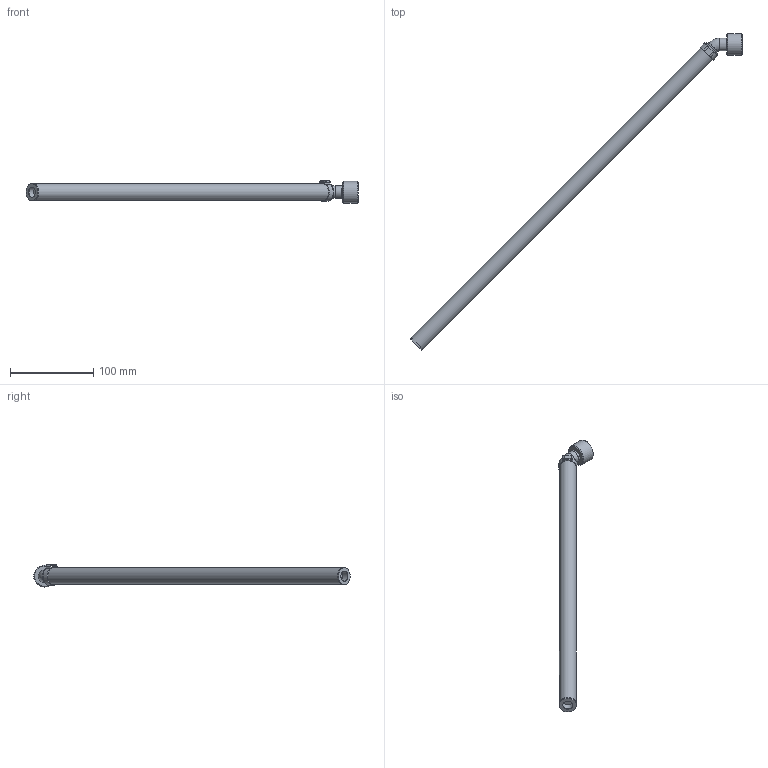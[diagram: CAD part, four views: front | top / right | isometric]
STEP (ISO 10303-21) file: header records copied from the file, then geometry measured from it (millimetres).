
FILE_DESCRIPTION( ( 'STEP AP203' ), '1' );
FILE_NAME( 'C:/Temp/Ganter_Step_05_03_2020/data/3_5/gn880_1/gn880_1_ans_abl/gn_880_1_b/Connector piece with drain hose GN 880.1-22-B-500-T.stp', '2020-03-12T13:42:30', ( 'License CC BY-ND 4.0' ), ( 'CADENAS' ), ' ', 'PARTsolutions', ' ' );
FILE_SCHEMA( ( 'CONFIG_CONTROL_DESIGN' ) );
Length unit declared in the file: millimetre
Products named in the file (6): Connector piece with drain hose GN 880.1-22-B-500-T; _Anschlussstueck mit Ablassschlauch GN 880.1-22-B-500-T_a; _Anschlussstueck mit Ablassschlauch GN 880.1-22-B-500-T_s; _Anschlussstueck mit Ablassschlauch GN 880.1-22-B-500-T_dk; _Anschlussstueck mit Ablassschlauch GN 880.1-22-B-500-T_sc; _Anschlussstueck mit Ablassschlauch GN 880.1-22-B-500-T_dk2
Assembly tree (5 placements, depth 2):
  Connector piece with drain hose GN 880.1-22-B-500-T
    _Anschlussstueck mit Ablassschlauch GN 880.1-22-B-500-T_a
    _Anschlussstueck mit Ablassschlauch GN 880.1-22-B-500-T_s
    _Anschlussstueck mit Ablassschlauch GN 880.1-22-B-500-T_dk
    _Anschlussstueck mit Ablassschlauch GN 880.1-22-B-500-T_sc
    _Anschlussstueck mit Ablassschlauch GN 880.1-22-B-500-T_dk2
Bounding box: 397.88 x 379.53 x 26.5 mm (x, y, z)
Volume: 89392.7 mm3; surface area: 64103.3 mm2
Topology: 5 solids, 5 shells, 60 faces, 110 edges, 71 vertices
Faces by surface type: plane 27, cylinder 25, torus 5, cone 3
Full cylindrical faces by diameter (mm): 8.5 x1, 9.5 x1, 10.5 x2, 12 x1, 13 x2, 14 x2, 15 x4, 20 x4, 20.376 x1, 26 x1
Entity records: 1557 total; most frequent: DIRECTION 270, CARTESIAN_POINT 217, ORIENTED_EDGE 162, AXIS2_PLACEMENT_3D 123, EDGE_LOOP 106, FACE_OUTER_BOUND 84, EDGE_CURVE 81, VERTEX_POINT 70
